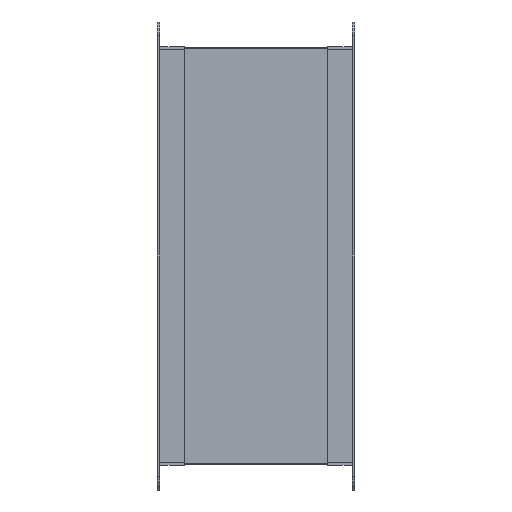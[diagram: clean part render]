
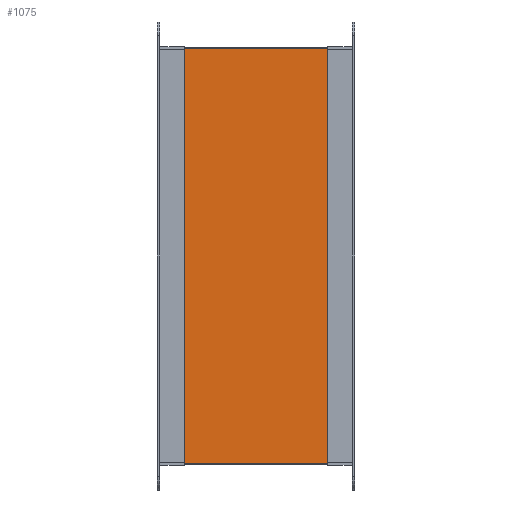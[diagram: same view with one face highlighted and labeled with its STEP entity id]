
A CAD part, left-side view. The second image highlights one B-rep face of the part: STEP entity #1075.
In plain terms, the highlighted planar face has unit normal (-1, 0, 0).
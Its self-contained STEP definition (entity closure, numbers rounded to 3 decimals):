
#63=PLANE('',#1187);
#119=FACE_OUTER_BOUND('',#185,.T.);
#185=EDGE_LOOP('',(#887,#888,#889,#890));
#281=LINE('',#1703,#393);
#290=LINE('',#1721,#402);
#291=LINE('',#1723,#403);
#292=LINE('',#1724,#404);
#393=VECTOR('',#1401,10.);
#402=VECTOR('',#1418,10.);
#403=VECTOR('',#1419,10.);
#404=VECTOR('',#1420,10.);
#550=VERTEX_POINT('',#1697);
#552=VERTEX_POINT('',#1701);
#557=VERTEX_POINT('',#1720);
#558=VERTEX_POINT('',#1722);
#677=EDGE_CURVE('',#552,#550,#281,.T.);
#686=EDGE_CURVE('',#550,#557,#290,.T.);
#687=EDGE_CURVE('',#558,#552,#291,.T.);
#688=EDGE_CURVE('',#557,#558,#292,.T.);
#887=ORIENTED_EDGE('',*,*,#686,.F.);
#888=ORIENTED_EDGE('',*,*,#677,.F.);
#889=ORIENTED_EDGE('',*,*,#687,.F.);
#890=ORIENTED_EDGE('',*,*,#688,.F.);
#1075=ADVANCED_FACE('',(#119),#63,.T.);
#1187=AXIS2_PLACEMENT_3D('',#1719,#1416,#1417);
#1401=DIRECTION('',(0.,-1.,0.));
#1416=DIRECTION('center_axis',(-1.,0.,0.));
#1417=DIRECTION('ref_axis',(0.,0.,1.));
#1418=DIRECTION('',(0.,0.,-1.));
#1419=DIRECTION('',(0.,0.,1.));
#1420=DIRECTION('',(0.,1.,0.));
#1697=CARTESIAN_POINT('',(-253.,-52.5,153.));
#1701=CARTESIAN_POINT('',(-253.,52.5,153.));
#1703=CARTESIAN_POINT('',(-253.,0.,153.));
#1719=CARTESIAN_POINT('Origin',(-253.,0.,-153.));
#1720=CARTESIAN_POINT('',(-253.,-52.5,-153.));
#1721=CARTESIAN_POINT('',(-253.,-52.5,9.25));
#1722=CARTESIAN_POINT('',(-253.,52.5,-153.));
#1723=CARTESIAN_POINT('',(-253.,52.5,-162.25));
#1724=CARTESIAN_POINT('',(-253.,0.,-153.));
